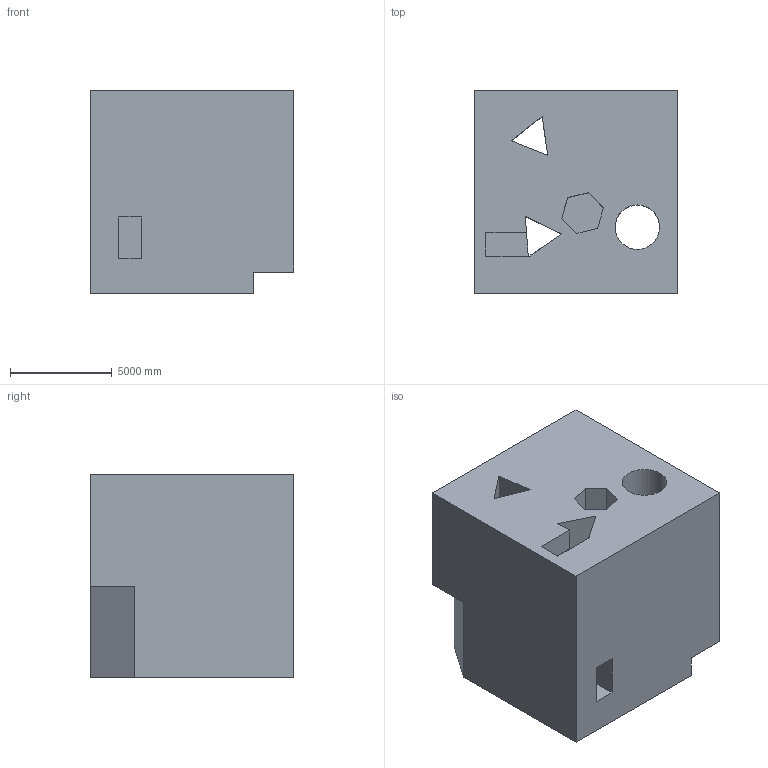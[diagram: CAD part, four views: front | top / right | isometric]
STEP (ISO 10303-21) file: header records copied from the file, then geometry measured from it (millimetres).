
FILE_DESCRIPTION (( 'STEP AP203' ), '1' );
FILE_NAME ('1809.STEP', '2022-08-19T13:05:39', ( 'user' ), ( '' ), 'SwSTEP 2.0', 'SolidWorks 2021', '' );
FILE_SCHEMA (( 'CONFIG_CONTROL_DESIGN' ));
Length unit declared in the file: centimetre
Products named in the file (1): 1809
Bounding box: 10000 x 10000 x 10000 mm (x, y, z)
Volume: 855661291058.1 mm3; surface area: 847370750 mm2
Topology: 1 solids, 1 shells, 49 faces, 150 edges, 100 vertices
Faces by surface type: plane 47, cylinder 2
Entity records: 1747 total; most frequent: CARTESIAN_POINT 300, ORIENTED_EDGE 300, DIRECTION 256, EDGE_CURVE 150, LINE 144, VECTOR 144, VERTEX_POINT 100, AXIS2_PLACEMENT_3D 56
